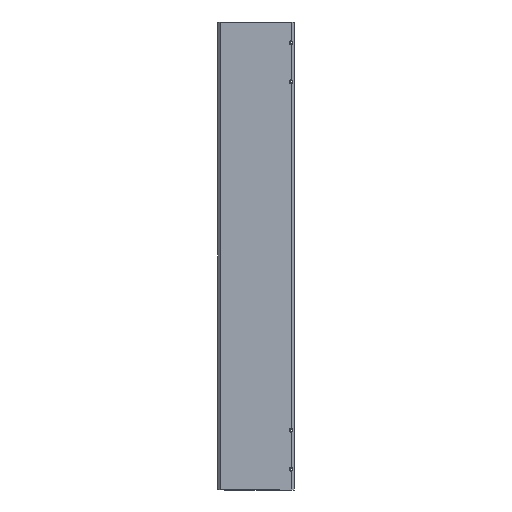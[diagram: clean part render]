
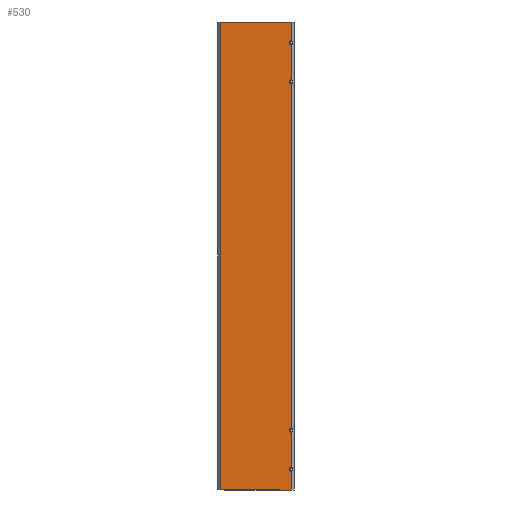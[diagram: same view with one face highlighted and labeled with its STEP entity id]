
A CAD part, left-side view. The second image highlights one B-rep face of the part: STEP entity #530.
In plain terms, the highlighted planar face has unit normal (-1, 0, 0).
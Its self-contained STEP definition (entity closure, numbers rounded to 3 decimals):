
#363=PLANE('',#11397);
#530=ADVANCED_FACE('',(#1109),#363,.T.);
#1109=FACE_OUTER_BOUND('',#1699,.F.);
#1699=EDGE_LOOP('',(#2866,#2867,#2868,#2869,#2870,#2871,#2872,#2873,#2874,
#2875,#2876,#2877,#2878,#2879,#2880,#2881));
#2866=ORIENTED_EDGE('',*,*,#7522,.T.);
#2867=ORIENTED_EDGE('',*,*,#7385,.F.);
#2868=ORIENTED_EDGE('',*,*,#7530,.F.);
#2869=ORIENTED_EDGE('',*,*,#7189,.T.);
#2870=ORIENTED_EDGE('',*,*,#7251,.T.);
#2871=ORIENTED_EDGE('',*,*,#7252,.T.);
#2872=ORIENTED_EDGE('',*,*,#7226,.T.);
#2873=ORIENTED_EDGE('',*,*,#7253,.T.);
#2874=ORIENTED_EDGE('',*,*,#7254,.T.);
#2875=ORIENTED_EDGE('',*,*,#7145,.T.);
#2876=ORIENTED_EDGE('',*,*,#7244,.T.);
#2877=ORIENTED_EDGE('',*,*,#7245,.T.);
#2878=ORIENTED_EDGE('',*,*,#7134,.T.);
#2879=ORIENTED_EDGE('',*,*,#7238,.T.);
#2880=ORIENTED_EDGE('',*,*,#7239,.T.);
#2881=ORIENTED_EDGE('',*,*,#7242,.T.);
#6416=CIRCLE('',#11040,1.216);
#6417=CIRCLE('',#11041,1.216);
#6418=CIRCLE('',#11042,1.216);
#6419=CIRCLE('',#11043,1.216);
#6424=CIRCLE('',#11048,1.216);
#6425=CIRCLE('',#11049,1.216);
#6426=CIRCLE('',#11050,1.216);
#6427=CIRCLE('',#11051,1.216);
#7134=EDGE_CURVE('',#10353,#10352,#8652,.T.);
#7145=EDGE_CURVE('',#10337,#10356,#8655,.T.);
#7189=EDGE_CURVE('',#10292,#10291,#8674,.T.);
#7226=EDGE_CURVE('',#10280,#10341,#8680,.T.);
#7238=EDGE_CURVE('',#10352,#10273,#6416,.T.);
#7239=EDGE_CURVE('',#10273,#10272,#6417,.T.);
#7242=EDGE_CURVE('',#10272,#10294,#8684,.T.);
#7244=EDGE_CURVE('',#10356,#10271,#6418,.T.);
#7245=EDGE_CURVE('',#10271,#10353,#6419,.T.);
#7251=EDGE_CURVE('',#10291,#10266,#6424,.T.);
#7252=EDGE_CURVE('',#10266,#10280,#6425,.T.);
#7253=EDGE_CURVE('',#10341,#10265,#6426,.T.);
#7254=EDGE_CURVE('',#10265,#10337,#6427,.T.);
#7385=EDGE_CURVE('',#10151,#10153,#8736,.T.);
#7522=EDGE_CURVE('',#10294,#10153,#8773,.T.);
#7530=EDGE_CURVE('',#10292,#10151,#8779,.T.);
#8652=LINE('',#16538,#9323);
#8655=LINE('',#16599,#9326);
#8674=LINE('',#16786,#9345);
#8680=LINE('',#17030,#9351);
#8684=LINE('',#17096,#9355);
#8736=LINE('',#17487,#9407);
#8773=LINE('',#17855,#9444);
#8779=LINE('',#17863,#9450);
#9323=VECTOR('',#12345,22.782);
#9326=VECTOR('',#12348,221.282);
#9345=VECTOR('',#12371,12.141);
#9351=VECTOR('',#12381,22.782);
#9355=VECTOR('',#12393,12.141);
#9407=VECTOR('',#12565,300.);
#9444=VECTOR('',#12742,46.);
#9450=VECTOR('',#12752,46.);
#10151=VERTEX_POINT('',#15394);
#10153=VERTEX_POINT('',#15396);
#10265=VERTEX_POINT('',#15508);
#10266=VERTEX_POINT('',#15509);
#10271=VERTEX_POINT('',#15514);
#10272=VERTEX_POINT('',#15515);
#10273=VERTEX_POINT('',#15516);
#10280=VERTEX_POINT('',#15523);
#10291=VERTEX_POINT('',#15534);
#10292=VERTEX_POINT('',#15535);
#10294=VERTEX_POINT('',#15537);
#10337=VERTEX_POINT('',#15580);
#10341=VERTEX_POINT('',#15584);
#10352=VERTEX_POINT('',#15595);
#10353=VERTEX_POINT('',#15596);
#10356=VERTEX_POINT('',#15599);
#11040=AXIS2_PLACEMENT_3D('',#17087,#12388,#12389);
#11041=AXIS2_PLACEMENT_3D('',#17088,#12390,#12391);
#11042=AXIS2_PLACEMENT_3D('',#17103,#12394,#12395);
#11043=AXIS2_PLACEMENT_3D('',#17104,#12396,#12397);
#11048=AXIS2_PLACEMENT_3D('',#17110,#12407,#12408);
#11049=AXIS2_PLACEMENT_3D('',#17111,#12409,#12410);
#11050=AXIS2_PLACEMENT_3D('',#17112,#12411,#12412);
#11051=AXIS2_PLACEMENT_3D('',#17113,#12413,#12414);
#11397=AXIS2_PLACEMENT_3D('',#18301,#13413,#13414);
#12345=DIRECTION('',(0.,0.,-1.));
#12348=DIRECTION('',(0.,0.,-1.));
#12371=DIRECTION('',(0.,0.,-1.));
#12381=DIRECTION('',(0.,0.,-1.));
#12388=DIRECTION('',(-1.,0.,0.));
#12389=DIRECTION('',(0.,-0.411,0.912));
#12390=DIRECTION('',(-1.,0.,0.));
#12391=DIRECTION('',(0.,1.,0.));
#12393=DIRECTION('',(0.,0.,-1.));
#12394=DIRECTION('',(-1.,0.,0.));
#12395=DIRECTION('',(0.,-0.411,0.912));
#12396=DIRECTION('',(-1.,0.,0.));
#12397=DIRECTION('',(0.,1.,0.));
#12407=DIRECTION('',(-1.,0.,0.));
#12408=DIRECTION('',(0.,-0.411,0.912));
#12409=DIRECTION('',(-1.,0.,0.));
#12410=DIRECTION('',(0.,1.,0.));
#12411=DIRECTION('',(-1.,0.,0.));
#12412=DIRECTION('',(0.,-0.411,0.912));
#12413=DIRECTION('',(-1.,0.,0.));
#12414=DIRECTION('',(0.,1.,0.));
#12565=DIRECTION('',(0.,0.,-1.));
#12742=DIRECTION('',(0.,1.,0.));
#12752=DIRECTION('',(0.,1.,0.));
#13413=DIRECTION('',(-1.,0.,0.));
#13414=DIRECTION('',(0.,1.,0.));
#15394=CARTESIAN_POINT('',(-21.75,-172.75,265.83));
#15396=CARTESIAN_POINT('',(-21.75,-172.75,-34.17));
#15508=CARTESIAN_POINT('',(-21.75,-217.033,227.58));
#15509=CARTESIAN_POINT('',(-21.75,-217.033,252.58));
#15514=CARTESIAN_POINT('',(-21.75,-217.033,4.08));
#15515=CARTESIAN_POINT('',(-21.75,-218.75,-22.029));
#15516=CARTESIAN_POINT('',(-21.75,-217.033,-20.92));
#15523=CARTESIAN_POINT('',(-21.75,-218.75,251.471));
#15534=CARTESIAN_POINT('',(-21.75,-218.75,253.689));
#15535=CARTESIAN_POINT('',(-21.75,-218.75,265.83));
#15537=CARTESIAN_POINT('',(-21.75,-218.75,-34.17));
#15580=CARTESIAN_POINT('',(-21.75,-218.75,226.471));
#15584=CARTESIAN_POINT('',(-21.75,-218.75,228.689));
#15595=CARTESIAN_POINT('',(-21.75,-218.75,-19.811));
#15596=CARTESIAN_POINT('',(-21.75,-218.75,2.971));
#15599=CARTESIAN_POINT('',(-21.75,-218.75,5.189));
#16538=CARTESIAN_POINT('',(-21.75,-218.75,2.971));
#16599=CARTESIAN_POINT('',(-21.75,-218.75,226.471));
#16786=CARTESIAN_POINT('',(-21.75,-218.75,265.83));
#17030=CARTESIAN_POINT('',(-21.75,-218.75,251.471));
#17087=CARTESIAN_POINT('',(-21.75,-218.25,-20.92));
#17088=CARTESIAN_POINT('',(-21.75,-218.25,-20.92));
#17096=CARTESIAN_POINT('',(-21.75,-218.75,-22.029));
#17103=CARTESIAN_POINT('',(-21.75,-218.25,4.08));
#17104=CARTESIAN_POINT('',(-21.75,-218.25,4.08));
#17110=CARTESIAN_POINT('',(-21.75,-218.25,252.58));
#17111=CARTESIAN_POINT('',(-21.75,-218.25,252.58));
#17112=CARTESIAN_POINT('',(-21.75,-218.25,227.58));
#17113=CARTESIAN_POINT('',(-21.75,-218.25,227.58));
#17487=CARTESIAN_POINT('',(-21.75,-172.75,265.83));
#17855=CARTESIAN_POINT('',(-21.75,-218.75,-34.17));
#17863=CARTESIAN_POINT('',(-21.75,-218.75,265.83));
#18301=CARTESIAN_POINT('',(-21.75,-221.75,268.83));
